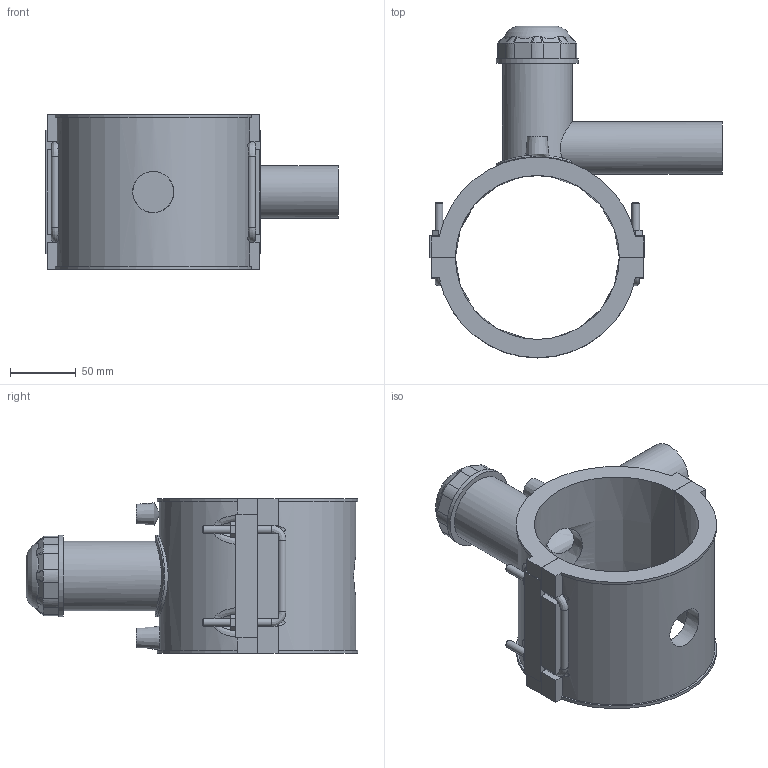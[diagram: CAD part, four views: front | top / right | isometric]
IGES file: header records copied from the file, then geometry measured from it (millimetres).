
Global section: file name: 496304125040.ipt; native system: Autodesk Inventor 2015; preprocessor: unknown; author: KIM; date: 20190124.130922; units: millimetre
Bounding box: 223 x 253 x 118 mm (x, y, z)
Volume: 843672.3 mm3; surface area: 191780 mm2
Topology: 2 solids, 4 shells, 224 faces, 567 edges, 364 vertices
Faces by surface type: plane 125, cylinder 36, revolution 28, bspline 21, cone 14
Full cylindrical faces by diameter (mm): 4 x2, 6 x8, 40 x1, 53.125 x1, 62.5 x1
